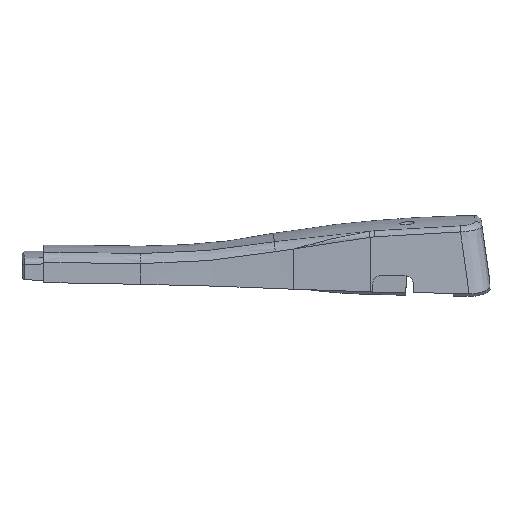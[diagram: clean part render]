
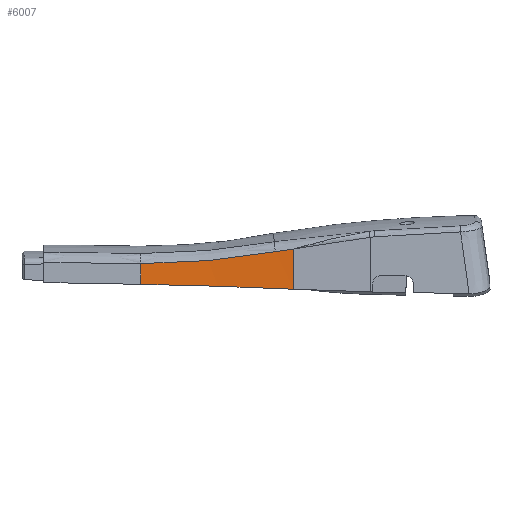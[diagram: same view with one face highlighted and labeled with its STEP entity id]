
A CAD part, front view. The second image highlights one B-rep face of the part: STEP entity #6007.
In plain terms, the highlighted free-form (B-spline) face has degree [1, 3] with [2, 6] control points.
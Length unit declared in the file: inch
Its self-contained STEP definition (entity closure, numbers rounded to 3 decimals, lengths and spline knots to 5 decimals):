
#9 = CARTESIAN_POINT ( 'NONE',  ( 4.51301, -0.80073, 3.82949 ) ) ;
#145 = CARTESIAN_POINT ( 'NONE',  ( 2.46345, -0.772, 2.53336 ) ) ;
#224 = CARTESIAN_POINT ( 'NONE',  ( 2.86918, -0.77944, 2.56323 ) ) ;
#312 = CARTESIAN_POINT ( 'NONE',  ( 1.75196, -0.76716, 2.51833 ) ) ;
#314 = EDGE_CURVE ( 'NONE', #1485, #4765, #13009, .T. ) ;
#398 = CARTESIAN_POINT ( 'NONE',  ( 1.8537, -0.76718, 2.5181 ) ) ;
#1464 = CARTESIAN_POINT ( 'NONE',  ( 4.50998, -0.84638, 2.78155 ) ) ;
#1485 = VERTEX_POINT ( 'NONE', #7850 ) ;
#1631 = CARTESIAN_POINT ( 'NONE',  ( 2.15874, -0.76859, 2.52148 ) ) ;
#1671 = CARTESIAN_POINT ( 'NONE',  ( 4.50787, -0.87795, 2.05679 ) ) ;
#1805 = CARTESIAN_POINT ( 'NONE',  ( 4.31713, -0.83512, 2.75443 ) ) ;
#2056 = DIRECTION ( 'NONE',  ( 0., -0.044, -0.999 ) ) ;
#2343 = EDGE_CURVE ( 'NONE', #11694, #12673, #16179, .T. ) ;
#2639 = CARTESIAN_POINT ( 'NONE',  ( 3.59379, -0.74553, 3.8691 ) ) ;
#3025 = CARTESIAN_POINT ( 'NONE',  ( 2.26035, -0.76952, 2.52442 ) ) ;
#3071 = VERTEX_POINT ( 'NONE', #12446 ) ;
#3113 = CARTESIAN_POINT ( 'NONE',  ( 4.17952, -0.82781, 2.73363 ) ) ;
#3574 = B_SPLINE_CURVE_WITH_KNOTS ( 'NONE', 3,
 ( #3113, #13706, #1805, #9379, #7121, #12415, #1464 ),
 .UNSPECIFIED., .F., .F.,
 ( 4, 1, 2, 4 ),
 ( 0., 0.5, 0.75, 1. ),
 .UNSPECIFIED. ) ;
#3576 = CARTESIAN_POINT ( 'NONE',  ( 3.59038, -0.82286, 2.0964 ) ) ;
#3936 = FACE_OUTER_BOUND ( 'NONE', #8966, .T. ) ;
#4111 = CARTESIAN_POINT ( 'NONE',  ( 2.67139, -0.80687, 1.76988 ) ) ;
#4765 = VERTEX_POINT ( 'NONE', #7784 ) ;
#4786 = CARTESIAN_POINT ( 'NONE',  ( 2.67173, -0.79135, 2.12526 ) ) ;
#5041 = CARTESIAN_POINT ( 'NONE',  ( 1.75197, -0.78346, 2.14483 ) ) ;
#5362 = EDGE_CURVE ( 'NONE', #3071, #12673, #5945, .T. ) ;
#5467 = CARTESIAN_POINT ( 'NONE',  ( 3.77753, -0.80843, 2.67299 ) ) ;
#5550 = B_SPLINE_SURFACE_WITH_KNOTS ( 'NONE', 1, 3, ( 
 ( #11938, #15846, #4111, #12191, #14709, #9424 ),
 ( #10733, #13325, #9597, #2639, #13579, #9 ) ),
 .UNSPECIFIED., .F., .F., .F.,
 ( 2, 2 ),
 ( 4, 2, 4 ),
 ( 0., 1. ),
 ( 0., 0.03504, 0.07008 ),
 .UNSPECIFIED. ) ;
#5730 = CARTESIAN_POINT ( 'NONE',  ( 4.17952, -0.82781, 2.73363 ) ) ;
#5945 = B_SPLINE_CURVE_WITH_KNOTS ( 'NONE', 3,
 ( #5041, #16686, #4786, #3576, #10109, #12794 ),
 .UNSPECIFIED., .F., .F.,
 ( 4, 2, 4 ),
 ( 0., 0.5, 1. ),
 .UNSPECIFIED. ) ;
#6007 = ADVANCED_FACE ( 'NONE', ( #3936 ), #5550, .F. ) ;
#6059 = CARTESIAN_POINT ( 'NONE',  ( 1.75197, -0.78346, 2.14483 ) ) ;
#6674 = ORIENTED_EDGE ( 'NONE', *, *, #2343, .F. ) ;
#6779 = CARTESIAN_POINT ( 'NONE',  ( 2.00625, -0.76768, 2.51905 ) ) ;
#6906 = ORIENTED_EDGE ( 'NONE', *, *, #314, .F. ) ;
#7090 = VECTOR ( 'NONE', #10639, 39.37008 ) ;
#7121 = CARTESIAN_POINT ( 'NONE',  ( 4.45486, -0.84307, 2.77398 ) ) ;
#7295 = VECTOR ( 'NONE', #2056, 39.37008 ) ;
#7784 = CARTESIAN_POINT ( 'NONE',  ( 4.17952, -0.82781, 2.73363 ) ) ;
#7850 = CARTESIAN_POINT ( 'NONE',  ( 1.75196, -0.76716, 2.51833 ) ) ;
#8243 = CARTESIAN_POINT ( 'NONE',  ( 2.56493, -0.77354, 2.53936 ) ) ;
#8416 = CARTESIAN_POINT ( 'NONE',  ( 1.95541, -0.76746, 2.51856 ) ) ;
#8513 = CARTESIAN_POINT ( 'NONE',  ( 4.50998, -0.84638, 2.78155 ) ) ;
#8831 = LINE ( 'NONE', #6059, #7295 ) ;
#8966 = EDGE_LOOP ( 'NONE', ( #14795, #9084, #6674, #9108, #6906 ) ) ;
#9084 = ORIENTED_EDGE ( 'NONE', *, *, #5362, .T. ) ;
#9108 = ORIENTED_EDGE ( 'NONE', *, *, #12927, .F. ) ;
#9379 = CARTESIAN_POINT ( 'NONE',  ( 4.39976, -0.83985, 2.76623 ) ) ;
#9424 = CARTESIAN_POINT ( 'NONE',  ( 4.50684, -0.89343, 1.70142 ) ) ;
#9463 = CARTESIAN_POINT ( 'NONE',  ( 1.80278, -0.76713, 2.51812 ) ) ;
#9597 = CARTESIAN_POINT ( 'NONE',  ( 2.6734, -0.71397, 3.89796 ) ) ;
#10109 = CARTESIAN_POINT ( 'NONE',  ( 4.04933, -0.84647, 2.07875 ) ) ;
#10639 = DIRECTION ( 'NONE',  ( -0.003, -0.044, -0.999 ) ) ;
#10733 = CARTESIAN_POINT ( 'NONE',  ( 1.75191, -0.70607, 3.91753 ) ) ;
#10943 = CARTESIAN_POINT ( 'NONE',  ( 3.1728, -0.78691, 2.59352 ) ) ;
#11694 = VERTEX_POINT ( 'NONE', #8513 ) ;
#11938 = CARTESIAN_POINT ( 'NONE',  ( 1.75198, -0.79898, 1.78945 ) ) ;
#12188 = CARTESIAN_POINT ( 'NONE',  ( 4.50787, -0.87795, 2.05679 ) ) ;
#12191 = CARTESIAN_POINT ( 'NONE',  ( 3.58969, -0.83836, 1.74102 ) ) ;
#12415 = CARTESIAN_POINT ( 'NONE',  ( 4.48232, -0.8447, 2.77779 ) ) ;
#12446 = CARTESIAN_POINT ( 'NONE',  ( 1.75197, -0.78346, 2.14483 ) ) ;
#12673 = VERTEX_POINT ( 'NONE', #12188 ) ;
#12794 = CARTESIAN_POINT ( 'NONE',  ( 4.50787, -0.87795, 2.05679 ) ) ;
#12927 = EDGE_CURVE ( 'NONE', #4765, #11694, #3574, .T. ) ;
#13009 = B_SPLINE_CURVE_WITH_KNOTS ( 'NONE', 3,
 ( #312, #9463, #398, #8416, #6779, #1631, #3025, #145, #8243, #16140, #224, #10943, #16227, #5467, #16057, #5730 ),
 .UNSPECIFIED., .F., .F.,
 ( 4, 2, 2, 2, 2, 2, 2, 4 ),
 ( 0., 0.00387, 0.00775, 0.01549, 0.02324, 0.03098, 0.04647, 0.06197 ),
 .UNSPECIFIED. ) ;
#13325 = CARTESIAN_POINT ( 'NONE',  ( 2.21284, -0.70607, 3.90916 ) ) ;
#13579 = CARTESIAN_POINT ( 'NONE',  ( 4.05361, -0.76919, 3.85145 ) ) ;
#13634 = EDGE_CURVE ( 'NONE', #1485, #3071, #8831, .T. ) ;
#13706 = CARTESIAN_POINT ( 'NONE',  ( 4.23455, -0.83066, 2.74209 ) ) ;
#14709 = CARTESIAN_POINT ( 'NONE',  ( 4.04847, -0.86197, 1.72338 ) ) ;
#14795 = ORIENTED_EDGE ( 'NONE', *, *, #13634, .T. ) ;
#15846 = CARTESIAN_POINT ( 'NONE',  ( 2.21186, -0.79898, 1.78108 ) ) ;
#16057 = CARTESIAN_POINT ( 'NONE',  ( 3.97866, -0.81741, 2.70273 ) ) ;
#16140 = CARTESIAN_POINT ( 'NONE',  ( 2.76779, -0.77726, 2.5543 ) ) ;
#16179 = LINE ( 'NONE', #1671, #7090 ) ;
#16227 = CARTESIAN_POINT ( 'NONE',  ( 3.3746, -0.79317, 2.61839 ) ) ;
#16686 = CARTESIAN_POINT ( 'NONE',  ( 2.21203, -0.78346, 2.13646 ) ) ;
